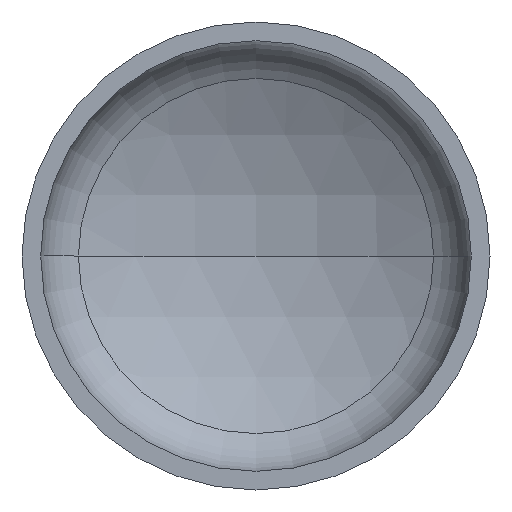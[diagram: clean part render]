
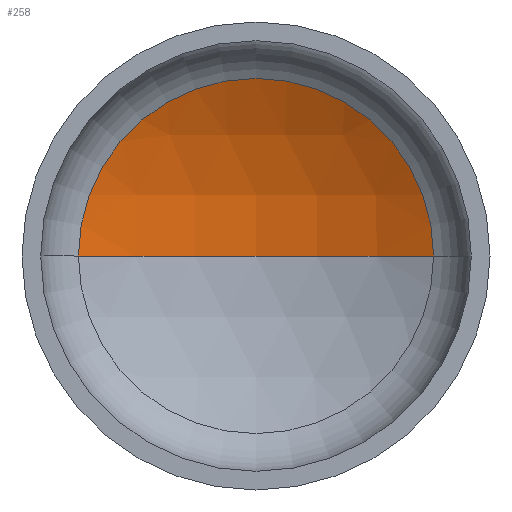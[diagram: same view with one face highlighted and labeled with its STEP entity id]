
A CAD part, front view. The second image highlights one B-rep face of the part: STEP entity #258.
In plain terms, the highlighted spherical face has radius 480 mm.
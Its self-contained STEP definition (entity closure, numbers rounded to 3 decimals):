
#27 = AXIS2_PLACEMENT_3D ( 'NONE', #297, #371, #314 ) ;
#28 = CARTESIAN_POINT ( 'NONE',  ( 0., -266.596, 0. ) ) ;
#29 = VERTEX_POINT ( 'NONE', #193 ) ;
#45 = EDGE_LOOP ( 'NONE', ( #293, #125, #71 ) ) ;
#51 = AXIS2_PLACEMENT_3D ( 'NONE', #163, #195, #351 ) ;
#56 = AXIS2_PLACEMENT_3D ( 'NONE', #28, #117, #349 ) ;
#58 = VERTEX_POINT ( 'NONE', #156 ) ;
#59 = AXIS2_PLACEMENT_3D ( 'NONE', #176, #222, #376 ) ;
#71 = ORIENTED_EDGE ( 'NONE', *, *, #118, .T. ) ;
#114 = VERTEX_POINT ( 'NONE', #318 ) ;
#117 = DIRECTION ( 'NONE',  ( 0., 0., -1. ) ) ;
#118 = EDGE_CURVE ( 'NONE', #29, #58, #372, .T. ) ;
#125 = ORIENTED_EDGE ( 'NONE', *, *, #138, .T. ) ;
#138 = EDGE_CURVE ( 'NONE', #114, #29, #196, .T. ) ;
#156 = CARTESIAN_POINT ( 'NONE',  ( -227.629, 155.997, 0. ) ) ;
#160 = EDGE_CURVE ( 'NONE', #114, #58, #315, .T. ) ;
#163 = CARTESIAN_POINT ( 'NONE',  ( 0., -266.596, 0. ) ) ;
#176 = CARTESIAN_POINT ( 'NONE',  ( 0., 155.997, 0. ) ) ;
#193 = CARTESIAN_POINT ( 'NONE',  ( 227.629, 155.997, 0. ) ) ;
#195 = DIRECTION ( 'NONE',  ( 0., 0., 1. ) ) ;
#196 = CIRCLE ( 'NONE', #56, 480. ) ;
#222 = DIRECTION ( 'NONE',  ( 0., -1., 0. ) ) ;
#258 = ADVANCED_FACE ( 'NONE', ( #409 ), #310, .F. ) ;
#293 = ORIENTED_EDGE ( 'NONE', *, *, #160, .F. ) ;
#297 = CARTESIAN_POINT ( 'NONE',  ( 0., -266.596, 0. ) ) ;
#310 = SPHERICAL_SURFACE ( 'NONE', #27, 480. ) ;
#314 = DIRECTION ( 'NONE',  ( -1., 0., 0. ) ) ;
#315 = CIRCLE ( 'NONE', #51, 480. ) ;
#318 = CARTESIAN_POINT ( 'NONE',  ( 0., 213.404, 0. ) ) ;
#349 = DIRECTION ( 'NONE',  ( -1., 0., 0. ) ) ;
#351 = DIRECTION ( 'NONE',  ( 1., 0., 0. ) ) ;
#371 = DIRECTION ( 'NONE',  ( 0., 0., -1. ) ) ;
#372 = CIRCLE ( 'NONE', #59, 227.629 ) ;
#376 = DIRECTION ( 'NONE',  ( 1., 0., 0. ) ) ;
#409 = FACE_OUTER_BOUND ( 'NONE', #45, .T. ) ;
